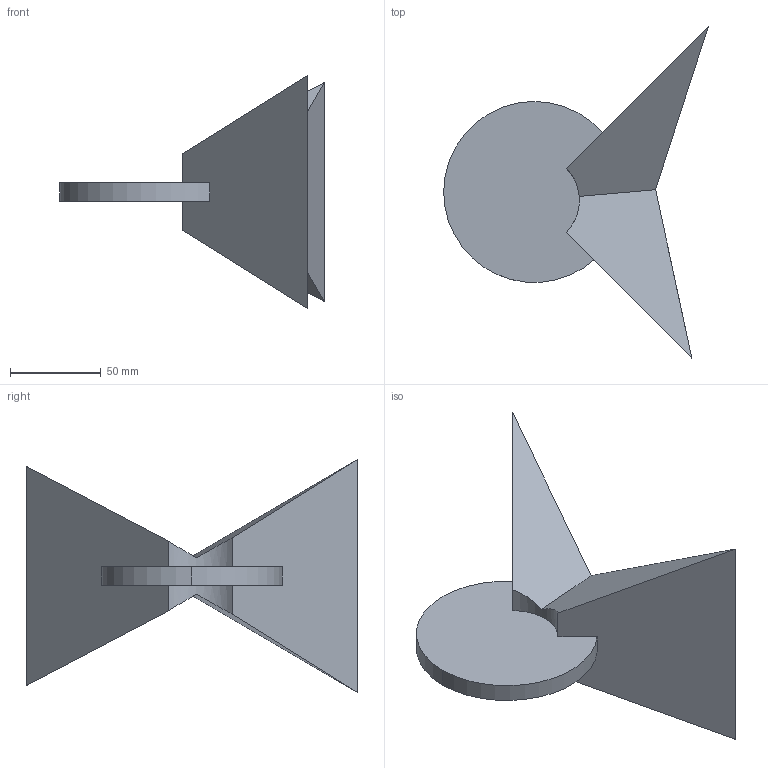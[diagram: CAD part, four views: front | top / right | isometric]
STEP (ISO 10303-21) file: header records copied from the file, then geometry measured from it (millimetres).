
FILE_DESCRIPTION(('STEP AP242'),'1');
FILE_NAME('star_all_surfaces_cuttable.stp','2024-07-19T10:45:08',(' '),(' '),'Spatial InterOp 3D',' ',' ');
FILE_SCHEMA(('AP242_MANAGED_MODEL_BASED_3D_ENGINEERING_MIM_LF {1 0 10303 442 1 1 4}'));
Length unit declared in the file: centimetre
Products named in the file (2): star_all_surfaces_cuttable; Solid1
Assembly tree (1 placements, depth 2):
  star_all_surfaces_cuttable
    Solid1
Bounding box: 146.17 x 183.14 x 128.75 mm (x, y, z)
Volume: 386727.3 mm3; surface area: 59422.1 mm2
Topology: 1 solids, 1 shells, 14 faces, 34 edges, 22 vertices
Faces by surface type: plane 10, cylinder 4
Entity records: 464 total; most frequent: DIRECTION 76, CARTESIAN_POINT 72, ORIENTED_EDGE 68, EDGE_CURVE 34, AXIS2_PLACEMENT_3D 26, LINE 24, VECTOR 24, VERTEX_POINT 22
